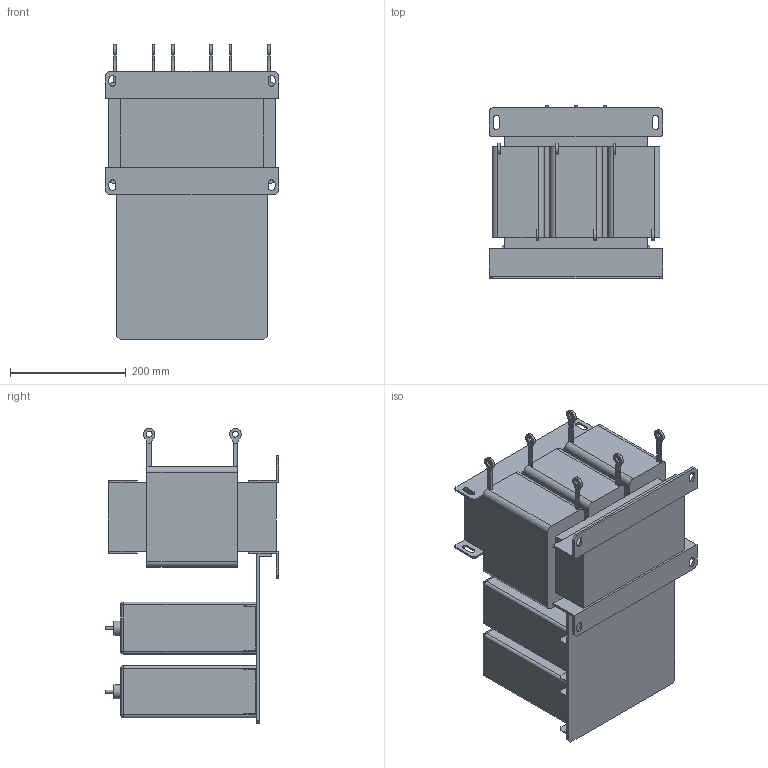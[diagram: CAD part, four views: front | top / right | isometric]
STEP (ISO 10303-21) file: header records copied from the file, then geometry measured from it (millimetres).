
FILE_DESCRIPTION(/* description */ (''),/* implementation_level */ '2;1');
FILE_NAME(/* name */ 'Sin-T6-090.stp',/* time_stamp */ '2025-03-05T16:24:33+04:00',/* author */ ('Лео'),/* organization */ (''),/* preprocessor_version */ 'ST-DEVELOPER v19.2',/* originating_system */ 'Autodesk Inventor 2024',/* authorisation */ '');
FILE_SCHEMA (('AUTOMOTIVE_DESIGN { 1 0 10303 214 3 1 1 }'));
Length unit declared in the file: millimetre
Products named in the file (1): Sin-T4-004
Bounding box: 300 x 300 x 509.96 mm (x, y, z)
Volume: 20657125.9 mm3; surface area: 1291949.1 mm2
Topology: 26 solids, 26 shells, 316 faces, 740 edges, 482 vertices
Faces by surface type: plane 212, cylinder 96, sphere 8
Full cylindrical faces by diameter (mm): 5 x6, 10 x6, 24 x6
Entity records: 9074 total; most frequent: DIRECTION 1566, CARTESIAN_POINT 1539, ORIENTED_EDGE 1480, EDGE_CURVE 740, LINE 548, VECTOR 548, AXIS2_PLACEMENT_3D 509, VERTEX_POINT 482
